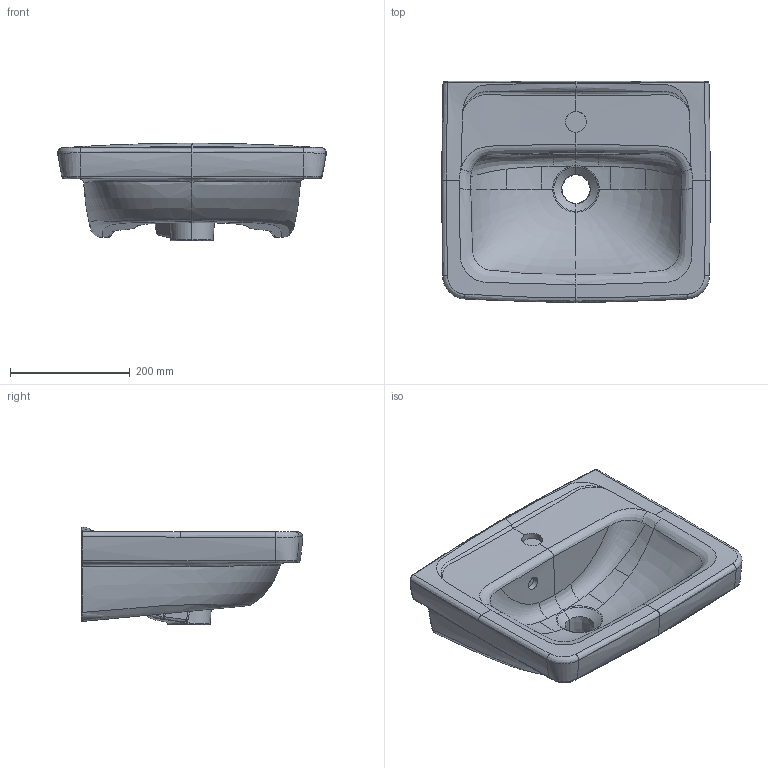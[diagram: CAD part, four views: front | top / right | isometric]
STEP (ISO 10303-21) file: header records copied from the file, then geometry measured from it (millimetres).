
FILE_DESCRIPTION(/* description */ (''),/* implementation_level */ '2;1');
FILE_NAME(/* name */ '439245.stp',/* time_stamp */ '2021-05-27T13:20:37+02:00',/* author */ (''),/* organization */ (''),/* preprocessor_version */ 'ST-DEVELOPER v16.7',/* originating_system */ 'SIEMENS PLM Software NX 1863',/* authorisation */ '');
FILE_SCHEMA (('AUTOMOTIVE_DESIGN { 1 0 10303 214 3 1 1 1 }'));
Products named in the file (1): koeb394416B3rir5
Bounding box: 449.81 x 369.99 x 163.43 mm (x, y, z)
Volume: 10161248.7 mm3; surface area: 544900.4 mm2
Topology: 1 solids, 1 shells, 265 faces, 665 edges, 400 vertices
Faces by surface type: bspline 186, cylinder 30, plane 29, extrusion 6, sphere 6, torus 6, cone 2
Entity records: 51380 total; most frequent: CARTESIAN_POINT 46610, ORIENTED_EDGE 1318, EDGE_CURVE 659, DIRECTION 477, B_SPLINE_CURVE_WITH_KNOTS 450, VERTEX_POINT 399, EDGE_LOOP 270, ADVANCED_FACE 265
